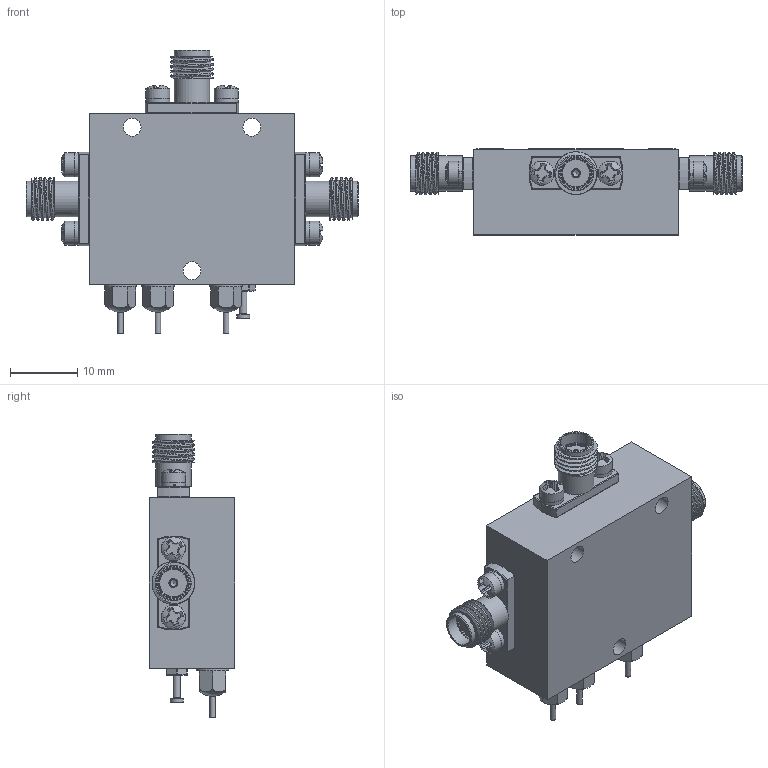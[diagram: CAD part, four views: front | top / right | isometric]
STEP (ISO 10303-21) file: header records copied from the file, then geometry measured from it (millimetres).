
FILE_DESCRIPTION (( 'STEP AP214' ), '1' );
FILE_NAME ('P2T-7G10G-53-T-SFF.STEP', '2026-08-24T19:29:10', ( '' ), ( '' ), 'SwSTEP 2.0', 'SolidWorks 2025', '' );
FILE_SCHEMA (( 'AUTOMOTIVE_DESIGN' ));
Length unit declared in the file: inch
Products named in the file (1): P2T-7G10G-53-T-SFF
Bounding box: 49.38 x 12.75 x 42.21 mm (x, y, z)
Volume: 10875.6 mm3; surface area: 7253.1 mm2
Topology: 31 solids, 31 shells, 715 faces, 2259 edges, 1756 vertices
Faces by surface type: plane 385, cylinder 136, torus 97, cone 43, sphere 36, bspline 18
Full cylindrical faces by diameter (mm): 0.305 x3, 0.381 x3, 0.813 x6, 1.016 x6, 1.067 x1, 1.27 x10, 1.93 x1, 2.057 x3, 2.184 x7, 2.286 x3, 2.591 x6, 2.642 x3, 2.845 x3, 3.302 x3, 3.556 x6, 4.191 x6, 4.597 x3, 4.826 x3, 5.283 x6
Entity records: 39819 total; most frequent: CARTESIAN_POINT 10881, ORIENTED_EDGE 4140, DIRECTION 3736, EDGE_CURVE 2070, VERTEX_POINT 1735, AXIS2_PLACEMENT_3D 1374, EDGE_LOOP 1057, VECTOR 988
